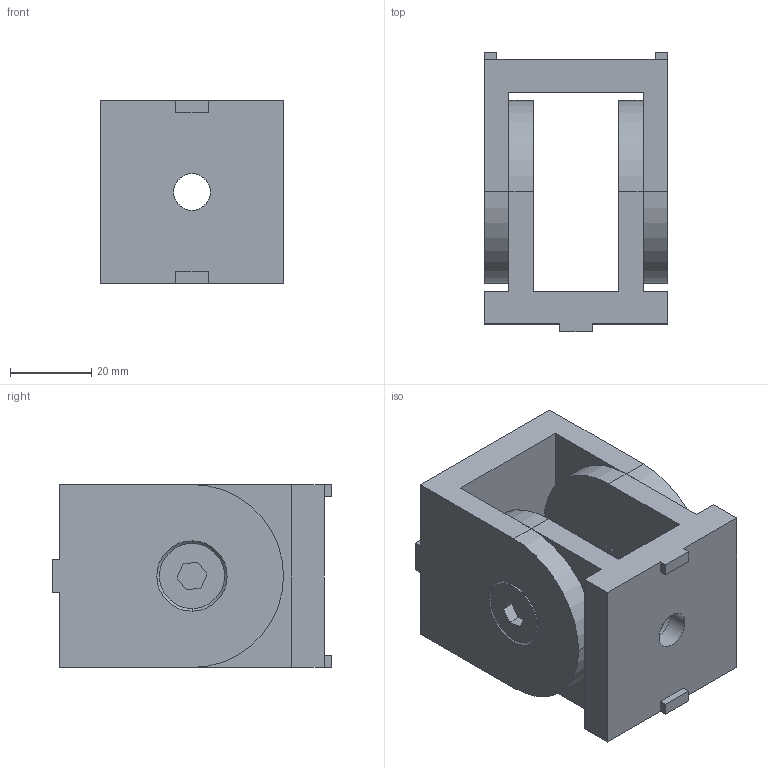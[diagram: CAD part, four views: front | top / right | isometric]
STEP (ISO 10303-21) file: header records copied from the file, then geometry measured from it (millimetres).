
FILE_DESCRIPTION (( 'STEP AP203' ), '1' );
FILE_NAME ('084.311.001.STEP', '2013-01-23T08:10:34', ( 'Alusic' ), ( 'Alusic' ), 'SwSTEP 2.0', 'SolidWorks 2011', '' );
FILE_SCHEMA (( 'CONFIG_CONTROL_DESIGN' ));
Length unit declared in the file: millimetre
Products named in the file (4): VITI TSEI UNI 5933_M8x12 UNI 5933; 084.311.001B; 084.311.001; 084.311.001A
Assembly tree (4 placements, depth 2):
  084.311.001
    084.311.001B
    VITI TSEI UNI 5933_M8x12 UNI 5933  x2
    084.311.001A
Bounding box: 45 x 68.6 x 45 mm (x, y, z)
Volume: 76304 mm3; surface area: 29966.6 mm2
Topology: 4 solids, 4 shells, 100 faces, 252 edges, 164 vertices
Faces by surface type: plane 56, cylinder 32, cone 12
Entity records: 2998 total; most frequent: DIRECTION 458, CARTESIAN_POINT 444, ORIENTED_EDGE 428, EDGE_CURVE 214, AXIS2_PLACEMENT_3D 154, VECTOR 150, LINE 150, VERTEX_POINT 140
